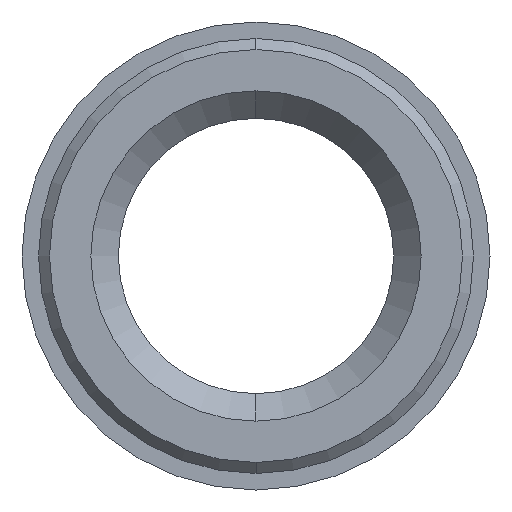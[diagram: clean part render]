
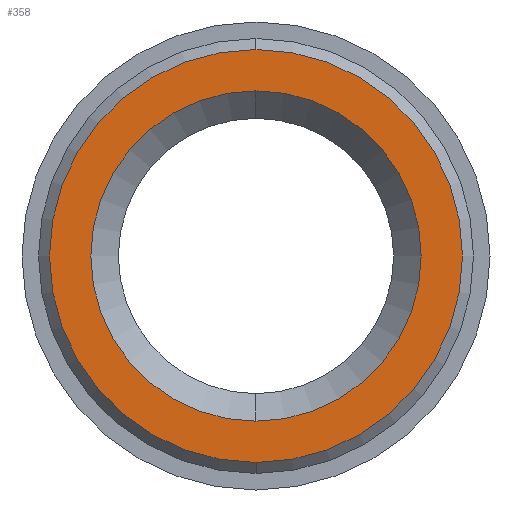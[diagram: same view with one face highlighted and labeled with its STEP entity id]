
A CAD part, left-side view. The second image highlights one B-rep face of the part: STEP entity #358.
In plain terms, the highlighted planar face has unit normal (-1, 0, 0).
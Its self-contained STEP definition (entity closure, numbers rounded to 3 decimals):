
#8 = EDGE_CURVE ( 'NONE', #587, #183, #98, .T. ) ;
#39 = ORIENTED_EDGE ( 'NONE', *, *, #169, .F. ) ;
#46 = EDGE_CURVE ( 'NONE', #183, #587, #341, .T. ) ;
#69 = AXIS2_PLACEMENT_3D ( 'NONE', #110, #269, #395 ) ;
#95 = EDGE_LOOP ( 'NONE', ( #504, #39 ) ) ;
#98 = CIRCLE ( 'NONE', #661, 3. ) ;
#110 = CARTESIAN_POINT ( 'NONE',  ( -6.35, 0., 0. ) ) ;
#117 = AXIS2_PLACEMENT_3D ( 'NONE', #618, #660, #136 ) ;
#123 = DIRECTION ( 'NONE',  ( 1., 0., 0. ) ) ;
#132 = ORIENTED_EDGE ( 'NONE', *, *, #8, .T. ) ;
#136 = DIRECTION ( 'NONE',  ( 0., 0., 1. ) ) ;
#140 = AXIS2_PLACEMENT_3D ( 'NONE', #447, #224, #388 ) ;
#147 = AXIS2_PLACEMENT_3D ( 'NONE', #241, #590, #187 ) ;
#169 = EDGE_CURVE ( 'NONE', #735, #487, #408, .T. ) ;
#178 = CIRCLE ( 'NONE', #140, 3.75 ) ;
#183 = VERTEX_POINT ( 'NONE', #624 ) ;
#187 = DIRECTION ( 'NONE',  ( 0., 0., -1. ) ) ;
#200 = ORIENTED_EDGE ( 'NONE', *, *, #46, .T. ) ;
#224 = DIRECTION ( 'NONE',  ( 1., 0., 0. ) ) ;
#241 = CARTESIAN_POINT ( 'NONE',  ( -6.35, 0., 0. ) ) ;
#269 = DIRECTION ( 'NONE',  ( 1., 0., 0. ) ) ;
#331 = FACE_BOUND ( 'NONE', #759, .T. ) ;
#341 = CIRCLE ( 'NONE', #147, 3. ) ;
#358 = ADVANCED_FACE ( 'NONE', ( #331, #556 ), #746, .F. ) ;
#388 = DIRECTION ( 'NONE',  ( 0., 0., 1. ) ) ;
#395 = DIRECTION ( 'NONE',  ( 0., 0., 1. ) ) ;
#408 = CIRCLE ( 'NONE', #69, 3.75 ) ;
#437 = CARTESIAN_POINT ( 'NONE',  ( -6.35, 0., -3. ) ) ;
#447 = CARTESIAN_POINT ( 'NONE',  ( -6.35, 0., 0. ) ) ;
#479 = CARTESIAN_POINT ( 'NONE',  ( -6.35, 0., 3.75 ) ) ;
#487 = VERTEX_POINT ( 'NONE', #479 ) ;
#504 = ORIENTED_EDGE ( 'NONE', *, *, #647, .F. ) ;
#556 = FACE_OUTER_BOUND ( 'NONE', #95, .T. ) ;
#587 = VERTEX_POINT ( 'NONE', #437 ) ;
#590 = DIRECTION ( 'NONE',  ( 1., 0., 0. ) ) ;
#618 = CARTESIAN_POINT ( 'NONE',  ( -6.35, 3.95, 0. ) ) ;
#624 = CARTESIAN_POINT ( 'NONE',  ( -6.35, 0., 3. ) ) ;
#625 = CARTESIAN_POINT ( 'NONE',  ( -6.35, 0., -3.75 ) ) ;
#631 = DIRECTION ( 'NONE',  ( 0., 0., -1. ) ) ;
#634 = CARTESIAN_POINT ( 'NONE',  ( -6.35, 0., 0. ) ) ;
#647 = EDGE_CURVE ( 'NONE', #487, #735, #178, .T. ) ;
#660 = DIRECTION ( 'NONE',  ( 1., 0., 0. ) ) ;
#661 = AXIS2_PLACEMENT_3D ( 'NONE', #634, #123, #631 ) ;
#735 = VERTEX_POINT ( 'NONE', #625 ) ;
#746 = PLANE ( 'NONE',  #117 ) ;
#759 = EDGE_LOOP ( 'NONE', ( #200, #132 ) ) ;
